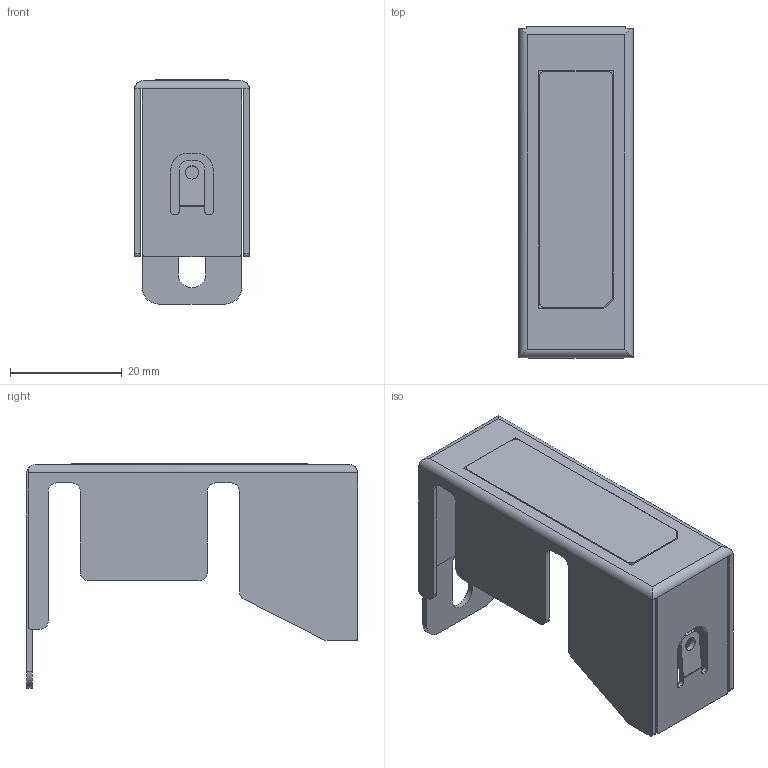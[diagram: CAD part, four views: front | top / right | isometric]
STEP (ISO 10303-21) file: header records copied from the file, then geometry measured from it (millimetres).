
FILE_DESCRIPTION( ( 'STEP AP203' ), '1' );
FILE_NAME( 'p:/temp/worker_110/temp/exporttempdir_6108_162_otdhZ/format_3/E21284.stp', '2019-10-07T10:28:58', ( '' ), ( '' ), ' ', 'PARTsolutions', ' ' );
FILE_SCHEMA( ( 'CONFIG_CONTROL_DESIGN' ) );
Length unit declared in the file: millimetre
Products named in the file (1): _E21284
Bounding box: 20.5 x 59.4 x 40.1 mm (x, y, z)
Volume: 5786.2 mm3; surface area: 10450.8 mm2
Topology: 1 solids, 1 shells, 144 faces, 402 edges, 266 vertices
Faces by surface type: plane 88, cylinder 56
Full cylindrical faces by diameter (mm): 2.4 x1
Entity records: 4681 total; most frequent: CARTESIAN_POINT 812, DIRECTION 803, ORIENTED_EDGE 802, EDGE_CURVE 401, LINE 289, VECTOR 289, VERTEX_POINT 266, AXIS2_PLACEMENT_3D 257
